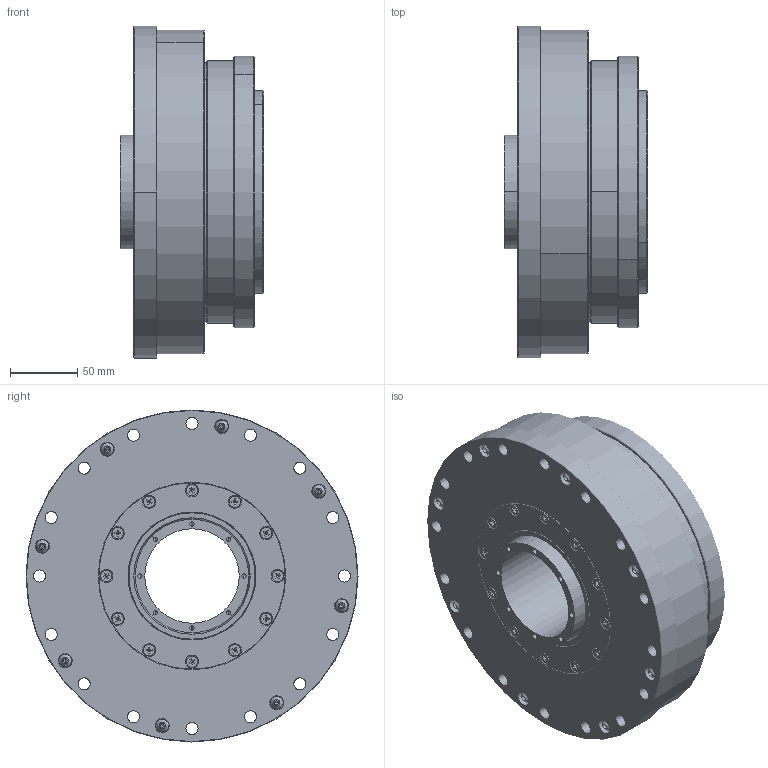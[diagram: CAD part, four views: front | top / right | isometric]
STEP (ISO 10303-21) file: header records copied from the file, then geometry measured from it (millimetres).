
FILE_DESCRIPTION (( 'STEP AP203' ), '1' );
FILE_NAME ('LHSG-58-XXX-C-III.step', '2025-01-07T07:27:43', ( '' ), ( '' ), 'SwSTEP 2.0', 'SolidWorks 2023', '' );
FILE_SCHEMA (( 'CONFIG_CONTROL_DESIGN' ));
Length unit declared in the file: metre
Products named in the file (1): LHSG-58-XXX-C-III
Bounding box: 106 x 246 x 246 mm (x, y, z)
Volume: 2441638.8 mm3; surface area: 899722.7 mm2
Topology: 81 solids, 81 shells, 2728 faces, 7354 edges, 4562 vertices
Faces by surface type: cylinder 812, plane 798, bspline 654, cone 464
Entity records: 103035 total; most frequent: CARTESIAN_POINT 37835, ORIENTED_EDGE 14148, DIRECTION 13152, EDGE_CURVE 7074, AXIS2_PLACEMENT_3D 5411, VERTEX_POINT 4562, CIRCLE 3336, EDGE_LOOP 3234
